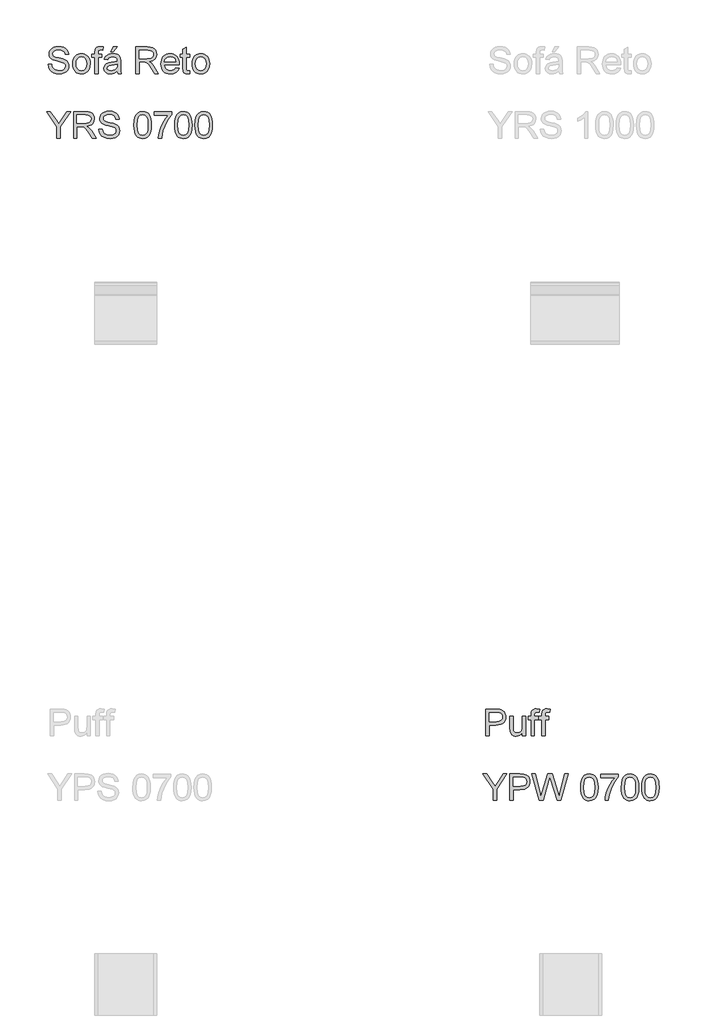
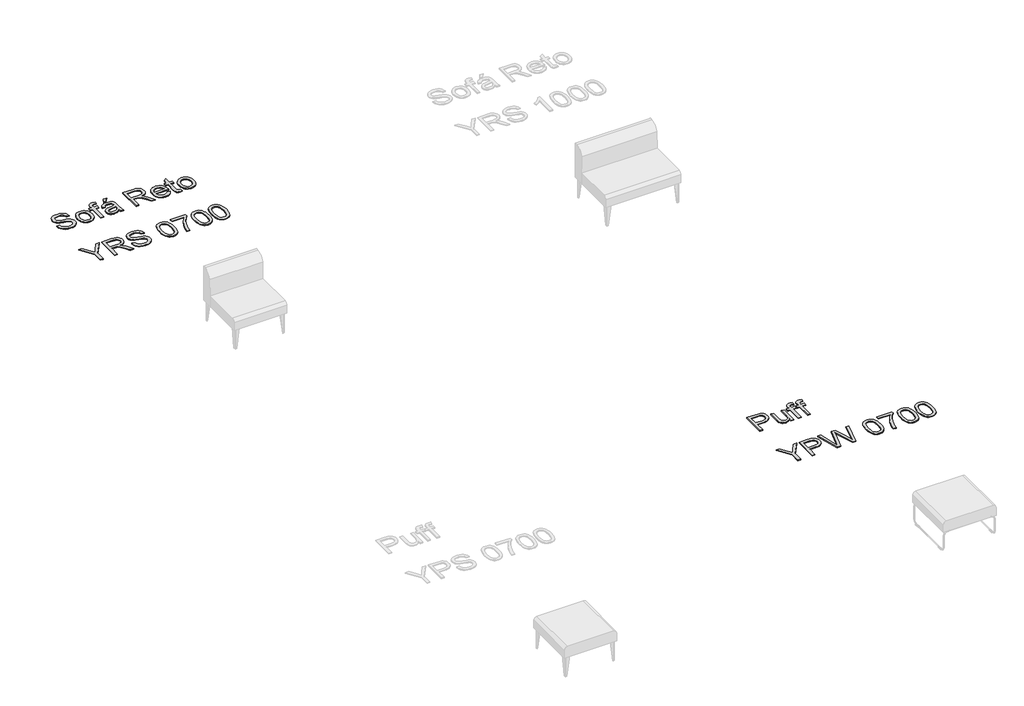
# One storey, part 9 of 26: 2 proxies.
"""IFC4 building model written with IfcOpenShell, lengths in millimetres."""

from ifc_helpers import new_model, si_unit, origin, origin_with_axes, place, context, project, spatial, polyline, outline, extrude, element, save

model = new_model("IFC4")

# Units and contexts
model_context = context("Model", 3, world=origin())
ifc_project = project(units=[si_unit("LENGTHUNIT", "METRE", prefix="MILLI")], contexts=[model_context])

# Site, building, storey
site = spatial("IfcSite", under=ifc_project)
building = spatial("IfcBuilding", under=site)
storey = spatial("IfcBuildingStorey", under=building, Name="Marelli - Linha YOUNG - Planta Baixa", Elevation=0.0)

# Proxies
placement = place(None, origin())
element("IfcBuildingElementProxy", 1, Name="300mm Arial", ObjectType="300mm Arial", at=placement, inside=storey, context=model_context, shape_type="SweptSolid", body=[
    extrude(outline(polyline([(-15025.7380244, 188.9537033), (-14988.0669081, 188.9537033), (-14983.7442947, 168.0488089), (-14975.9268023, 151.2457988), (-14963.7315142, 137.9100765), (-14946.2755135, 127.4070455), (-14924.9383578, 120.5920316), (-14901.0996045, 118.3203602), (-14880.1119367, 120.0402086), (-14861.736231, 125.1997535), (-14846.8462072, 133.3667338), (-14836.3155851, 144.1088881), (-14830.0523942, 156.442132), (-14827.9646638, 169.3823812), (-14829.5281623, 181.9915366), (-14834.2186578, 192.8900407), (-14843.7468014, 202.1882581), (-14859.8232446, 209.9965534), (-14914.6744501, 224.3807394), (-14950.6809004, 233.8996861), (-14973.7195103, 242.9587802), (-14992.472295, 255.6323149), (-15005.7620321, 270.9913882), (-15013.680692, 288.7049063), (-15016.3202454, 308.4417753), (-15013.0552927, 330.505498), (-15003.2604345, 351.0792986), (-14987.1931884, 368.5169052), (-14965.1110716, 381.1720458), (-14938.6051739, 388.8699765), (-14909.2665848, 391.4359535), (-14877.4815804, 388.7504149), (-14849.6697015, 380.6937992), (-14826.8242296, 367.4316533), (-14809.9384461, 349.129524), (-14799.2514741, 326.9278456), (-14795.0024371, 301.9670522), (-14832.6735534, 301.9670522), (-14839.5897349, 324.4446421), (-14854.0107091, 340.6682381), (-14876.5434813, 350.4906874), (-14907.7950568, 353.7648371), (-14939.7823963, 350.5274756), (-14961.7265573, 340.8153909), (-14974.4184861, 326.5231754), (-14978.6491291, 309.5454213), (-14975.6508908, 295.0692648), (-14966.656176, 283.4257997), (-14945.3925967, 273.0147392), (-14905.1463064, 262.3829495), (-14863.6124292, 252.2845888), (-14838.4860889, 243.473815), (-14817.0109774, 229.8069989), (-14802.0289832, 212.9396094), (-14793.2274064, 193.0555876), (-14790.2935475, 170.3388744), (-14793.6688648, 147.1163234), (-14803.7948168, 125.2733299), (-14820.257536, 106.47456), (-14842.6431554, 92.3846796), (-14869.5629204, 83.5831028), (-14899.6280765, 80.6492439), (-14936.5358377, 83.8130291), (-14966.9136934, 93.3043846), (-14991.1111316, 109.1600986), (-15009.4776403, 131.4169593), (-15021.2682582, 158.5298623), (-15025.7380244, 188.9537033)])), origin_with_axes(), (0.0, 0.0, 1.0), 10.0),
    extrude(outline(polyline([(-14747.9135417, 196.0170376), (-14745.8763951, 224.6796436), (-14739.7649555, 249.378321), (-14729.5792227, 270.11307), (-14715.3191969, 286.8838904), (-14700.962602, 297.6030521), (-14685.1160851, 305.2595961), (-14667.7796461, 309.8535225), (-14648.953285, 311.3848313), (-14628.1702515, 309.5201294), (-14609.3783793, 303.9260239), (-14592.5776685, 294.6025145), (-14577.7681189, 281.5496015), (-14565.6808961, 265.2087431), (-14557.0471655, 246.0213978), (-14551.8669272, 223.9875656), (-14550.1401811, 199.1072464), (-14553.1936016, 161.049854), (-14562.3538633, 132.0791469), (-14577.3542517, 110.3833062), (-14597.9280522, 94.1505132), (-14622.3646138, 84.0245612), (-14648.953285, 80.6492439), (-14670.0398211, 82.507048), (-14689.0064372, 88.0804602), (-14705.8531333, 97.3694806), (-14720.5799094, 110.3741091), (-14732.5383735, 126.8736166), (-14741.0801336, 146.6472739), (-14746.2051897, 169.6950809), (-14747.9135417, 196.0170376)]), holes=[polyline([(-14710.2424254, 196.090614), (-14705.8830237, 161.9971501), (-14692.8048188, 137.7077414), (-14673.1231321, 123.1672055), (-14648.953285, 118.3203602), (-14624.8938025, 123.1947967), (-14605.248904, 137.818106), (-14592.170699, 162.4294115), (-14587.8112974, 197.2678364), (-14592.1982902, 230.3680189), (-14605.3592686, 254.3263339), (-14625.0317582, 268.8668697), (-14648.953285, 273.713715), (-14673.1231321, 268.8852638), (-14692.8048188, 254.3999103), (-14705.8830237, 230.1656838), (-14710.2424254, 196.090614)])]), origin_with_axes(), (0.0, 0.0, 1.0), 10.0),
    extrude(outline(polyline([(-14498.3423962, 85.3581335), (-14498.3423962, 269.0048255), (-14531.3046229, 269.0048255), (-14531.3046229, 306.6759418), (-14498.3423962, 306.6759418), (-14498.3423962, 328.9695907), (-14494.3692706, 360.3867131), (-14486.7909015, 372.913095), (-14475.0922541, 382.8275148), (-14458.7215053, 389.2838438), (-14437.1268322, 391.4359535), (-14402.7666538, 387.3156751), (-14408.2848837, 351.9990036), (-14429.9899215, 353.7648371), (-14444.3097281, 352.2013387), (-14453.7183101, 347.5108432), (-14458.9330374, 338.5529166), (-14460.6712798, 324.1871247), (-14460.6712798, 306.6759418), (-14418.291274, 306.6759418), (-14418.291274, 269.0048255), (-14460.6712798, 269.0048255), (-14460.6712798, 85.3581335), (-14498.3423962, 85.3581335)])), origin_with_axes(), (0.0, 0.0, 1.0), 10.0),
    extrude(outline(polyline([(-14244.0623611, 113.6114707), (-14262.0609877, 98.178821), (-14280.5930432, 88.0804602), (-14300.0815919, 82.507048), (-14320.9496981, 80.6492439), (-14352.4311998, 85.1190102), (-14375.6537508, 98.5283089), (-14389.9735574, 118.8905773), (-14394.7468263, 144.2192527), (-14392.9442045, 159.8358434), (-14387.5363392, 174.0176943), (-14379.194615, 186.1578001), (-14368.5904165, 195.6491556), (-14342.2132774, 208.0099907), (-14309.6189326, 213.6753734), (-14271.1016877, 219.6350617), (-14244.2830903, 226.6248196), (-14244.0623611, 235.0125291), (-14246.6559292, 251.8247363), (-14254.4366334, 262.8244079), (-14271.8374517, 270.9913882), (-14296.0808752, 273.713715), (-14318.5216769, 271.9018962), (-14334.1934499, 266.4664397), (-14344.8804219, 256.4140642), (-14352.3668205, 240.7514882), (-14390.0379368, 245.4603778), (-14383.4988343, 266.0617695), (-14373.7407644, 282.2485773), (-14359.8532191, 294.6278064), (-14340.9256904, 303.8064622), (-14317.7767159, 309.490239), (-14291.2248329, 311.3848313), (-14265.7582018, 309.7109682), (-14245.5706773, 304.689379), (-14230.3495597, 297.138601), (-14219.7821494, 287.8771718), (-14212.7739974, 276.4268447), (-14208.2306548, 262.3093731), (-14206.3912448, 229.3471464), (-14206.3912448, 182.4789802), (-14204.4782584, 117.0327733), (-14196.9734657, 85.3581335), (-14234.644582, 85.3581335), (-14244.0623611, 113.6114707)]), holes=[polyline([(-14244.0623611, 188.9537033), (-14304.8364667, 177.4022087), (-14337.2468705, 171.2953675), (-14351.9253621, 161.3625537), (-14357.07571, 146.8680031), (-14354.2706098, 135.6659963), (-14345.8553092, 126.4873405), (-14332.0137491, 120.3621053), (-14312.9298706, 118.3203602), (-14292.6963609, 120.5736375), (-14274.8172959, 127.3334691), (-14260.3227453, 137.2938741), (-14250.2427786, 149.1488714), (-14245.7730124, 161.3625537), (-14244.2830903, 178.2851254), (-14244.0623611, 188.9537033)])]), origin_with_axes(), (0.0, 0.0, 1.0), 10.0),
    extrude(outline(polyline([(-14319.4045937, 330.2203895), (-14291.1512565, 386.7270639), (-14244.0623611, 386.7270639), (-14291.1512565, 330.2203895), (-14319.4045937, 330.2203895)])), origin_with_axes(), (0.0, 0.0, 1.0), 10.0),
    extrude(outline(polyline([(-14032.1623319, 85.3581335), (-14032.1623319, 386.7270639), (-13902.2999876, 386.7270639), (-13867.3971833, 384.6945159), (-13842.0041286, 378.5968718), (-13823.4444819, 367.3396828), (-13809.0419018, 349.8284998), (-13799.7988667, 328.114265), (-13796.717855, 304.2479206), (-13801.8222176, 274.5598436), (-13817.1353057, 249.9485381), (-13828.7350848, 239.9191552), (-13843.1169716, 231.9039262), (-13880.2270679, 221.9159301), (-13858.8163357, 205.8026987), (-13828.2821301, 167.0279364), (-13778.0294496, 85.3581335), (-13821.807407, 85.3581335), (-13861.0236277, 147.8244962), (-13889.3505413, 189.1744325), (-13909.2529573, 208.7089665), (-13927.1688104, 215.8826654), (-13949.021001, 217.2070405), (-13994.4912156, 217.2070405), (-13994.4912156, 85.3581335), (-14032.1623319, 85.3581335)]), holes=[polyline([(-13994.4912156, 254.8781568), (-13910.1726623, 254.8781568), (-13885.9568299, 256.2117291), (-13867.167257, 260.2124458), (-13853.0221943, 267.1470214), (-13842.7398926, 277.2821704), (-13836.4767016, 289.5418378), (-13834.3889713, 302.849969), (-13838.3712939, 321.2256747), (-13850.3182617, 336.032925), (-13870.8736681, 345.800192), (-13900.6813068, 349.0559476), (-13994.4912156, 349.0559476), (-13994.4912156, 254.8781568)])]), origin_with_axes(), (0.0, 0.0, 1.0), 10.0),
    extrude(outline(polyline([(-13580.5503946, 151.282587), (-13543.6150423, 146.5736975), (-13556.9231734, 118.7434245), (-13578.1591616, 97.9396977), (-13606.8447602, 84.9718574), (-13642.5017226, 80.6492439), (-13665.8760248, 82.5139458), (-13686.7027443, 88.1080514), (-13704.9818809, 97.4315607), (-13720.7134348, 110.4844737), (-13733.3639769, 126.903507), (-13742.4000784, 146.3253771), (-13747.8217393, 168.750084), (-13749.6289596, 194.1776276), (-13747.8033452, 220.4673947), (-13742.326502, 243.6393619), (-13733.19843, 263.6935292), (-13720.4191292, 280.6298965), (-13704.7289621, 294.0851805), (-13686.8682912, 303.6960976), (-13666.8371166, 309.4626479), (-13644.6354381, 311.3848313), (-13623.1488304, 309.4672464), (-13603.7177632, 303.7144917), (-13586.3422367, 294.1265672), (-13571.0222509, 280.7034729), (-13558.5165623, 263.8038938), (-13549.5839276, 243.7865147), (-13544.2243468, 220.6513357), (-13542.4378199, 194.3983568), (-13542.6585491, 184.2448138), (-13711.9578433, 184.2448138), (-13705.4371349, 156.0466588), (-13690.2895937, 135.3165084), (-13668.4282062, 122.5693973), (-13641.7659586, 118.3203602), (-13621.7163898, 120.2885289), (-13604.8306063, 126.1930349), (-13591.1086078, 136.4017603), (-13580.5503946, 151.282587)]), holes=[polyline([(-13711.9578433, 221.9159301), (-13580.1089362, 221.9159301), (-13585.2041018, 241.818346), (-13595.192098, 256.0553792), (-13617.1546531, 269.2991311), (-13644.7825909, 273.713715), (-13670.1756457, 270.1912449), (-13691.1725105, 259.6238346), (-13705.7682287, 243.1519182), (-13711.9578433, 221.9159301)])]), origin_with_axes(), (0.0, 0.0, 1.0), 10.0),
    extrude(outline(polyline([(-13424.7155814, 116.7752559), (-13420.0066919, 84.2544875), (-13448.1864527, 80.6492439), (-13466.2678528, 82.2127424), (-13479.7507279, 86.9032378), (-13489.2788716, 94.1321191), (-13495.4960773, 103.3107748), (-13498.9173799, 119.0745183), (-13500.057814, 146.0586627), (-13500.057814, 269.0048255), (-13528.3111513, 269.0048255), (-13528.3111513, 306.6759418), (-13500.057814, 306.6759418), (-13500.057814, 360.4602895), (-13462.3866977, 382.6067856), (-13462.3866977, 306.6759418), (-13424.7155814, 306.6759418), (-13424.7155814, 269.0048255), (-13462.3866977, 269.0048255), (-13462.3866977, 147.1623087), (-13460.400135, 127.7381393), (-13453.9622, 120.858746), (-13441.1231184, 118.3203602), (-13424.7155814, 116.7752559)])), origin_with_axes(), (0.0, 0.0, 1.0), 10.0),
    extrude(outline(polyline([(-13396.4622442, 196.0170376), (-13394.4250977, 224.6796436), (-13388.313658, 249.378321), (-13378.1279253, 270.11307), (-13363.8678994, 286.8838904), (-13349.5113046, 297.6030521), (-13333.6647876, 305.2595961), (-13316.3283486, 309.8535225), (-13297.5019875, 311.3848313), (-13276.718954, 309.5201294), (-13257.9270819, 303.9260239), (-13241.126371, 294.6025145), (-13226.3168214, 281.5496015), (-13214.2295986, 265.2087431), (-13205.5958681, 246.0213978), (-13200.4156297, 223.9875656), (-13198.6888836, 199.1072464), (-13201.7423042, 161.049854), (-13210.9025658, 132.0791469), (-13225.9029542, 110.3833062), (-13246.4767548, 94.1505132), (-13270.9133163, 84.0245612), (-13297.5019875, 80.6492439), (-13318.5885236, 82.507048), (-13337.5551397, 88.0804602), (-13354.4018358, 97.3694806), (-13369.128612, 110.3741091), (-13381.0870761, 126.8736166), (-13389.6288361, 146.6472739), (-13394.7538922, 169.6950809), (-13396.4622442, 196.0170376)]), holes=[polyline([(-13358.7911279, 196.090614), (-13354.4317263, 161.9971501), (-13341.3535213, 137.7077414), (-13321.6718346, 123.1672055), (-13297.5019875, 118.3203602), (-13273.442505, 123.1947967), (-13253.7976065, 137.818106), (-13240.7194015, 162.4294115), (-13236.3599999, 197.2678364), (-13240.7469927, 230.3680189), (-13253.9079711, 254.3263339), (-13273.5804608, 268.8668697), (-13297.5019875, 273.713715), (-13321.6718346, 268.8852638), (-13341.3535213, 254.3999103), (-13354.4317263, 230.1656838), (-13358.7911279, 196.090614)])]), origin_with_axes(), (0.0, 0.0, 1.0), 10.0),
    extrude(outline(polyline([(-14926.8513441, -646.4907736), (-14926.8513441, -518.8357213), (-15044.5735826, -345.1218432), (-15000.1334376, -345.1218432), (-14937.2991928, -437.9016823), (-14905.1463064, -485.2113069), (-14872.9198436, -434.517168), (-14815.8981344, -345.1218432), (-14771.4579894, -345.1218432), (-14889.1802278, -518.8357213), (-14889.1802278, -646.4907736), (-14926.8513441, -646.4907736)])), origin_with_axes(), (0.0, 0.0, 1.0), 10.0),
    extrude(outline(polyline([(-14738.4957626, -646.4907736), (-14738.4957626, -345.1218432), (-14608.6334183, -345.1218432), (-14573.730614, -347.1543912), (-14548.3375593, -353.2520352), (-14529.7779126, -364.5092243), (-14515.3753325, -382.0204073), (-14506.1322974, -403.734642), (-14503.0512857, -427.6009865), (-14508.1556484, -457.2890635), (-14523.4687364, -481.900369), (-14535.0685156, -491.9297519), (-14549.4504023, -499.9449808), (-14586.5604986, -509.932977), (-14565.1497665, -526.0462084), (-14534.6155609, -564.8209707), (-14484.3628803, -646.4907736), (-14528.1408378, -646.4907736), (-14567.3570585, -584.0244108), (-14595.6839721, -542.6744746), (-14615.586388, -523.1399406), (-14633.5022412, -515.9662417), (-14655.3544317, -514.6418665), (-14700.8246463, -514.6418665), (-14700.8246463, -646.4907736), (-14738.4957626, -646.4907736)]), holes=[polyline([(-14700.8246463, -476.9707502), (-14616.506093, -476.9707502), (-14592.2902607, -475.637178), (-14573.5006878, -471.6364613), (-14559.3556251, -464.7018857), (-14549.0733233, -454.5667367), (-14542.8101323, -442.3070692), (-14540.722402, -428.9989381), (-14544.7047246, -410.6232324), (-14556.6516924, -395.8159821), (-14577.2070989, -386.0487151), (-14607.0147375, -382.7929595), (-14700.8246463, -382.7929595), (-14700.8246463, -476.9707502)])]), origin_with_axes(), (0.0, 0.0, 1.0), 10.0),
    extrude(outline(polyline([(-14451.2535008, -542.8952038), (-14413.5823845, -542.8952038), (-14409.259771, -563.8000981), (-14401.4422786, -580.6031083), (-14389.2469905, -593.9388306), (-14371.7909898, -604.4418616), (-14350.4538341, -611.2568755), (-14326.6150808, -613.5285468), (-14305.627413, -611.8086985), (-14287.2517073, -606.6491535), (-14272.3616836, -598.4821732), (-14261.8310615, -587.740019), (-14255.5678705, -575.4067751), (-14253.4801402, -562.4665259), (-14255.0436386, -549.8573705), (-14259.7341341, -538.9588664), (-14269.2622778, -529.660649), (-14285.3387209, -521.8523536), (-14340.1899264, -507.4681676), (-14376.1963767, -497.949221), (-14399.2349867, -488.8901269), (-14417.9877714, -476.2165921), (-14431.2775084, -460.8575188), (-14439.1961684, -443.1440008), (-14441.8357217, -423.4071317), (-14438.570769, -401.3434091), (-14428.7759109, -380.7696085), (-14412.7086647, -363.3320019), (-14390.626548, -350.6768613), (-14364.1206502, -342.9789305), (-14334.7820611, -340.4129536), (-14302.9970567, -343.0984922), (-14275.1851779, -351.1551079), (-14252.339706, -364.4172538), (-14235.4539224, -382.7193831), (-14224.7669504, -404.9210615), (-14220.5179134, -429.8818548), (-14258.1890297, -429.8818548), (-14265.1052112, -407.4042649), (-14279.5261854, -391.180669), (-14302.0589576, -381.3582197), (-14333.3105331, -378.0840699), (-14365.2978726, -381.3214315), (-14387.2420336, -391.0335162), (-14399.9339624, -405.3257317), (-14404.1646054, -422.3034857), (-14401.1663671, -436.7796423), (-14392.1716523, -448.4231074), (-14370.908073, -458.8341679), (-14330.6617828, -469.4659575), (-14289.1279055, -479.5643183), (-14264.0015652, -488.3750921), (-14242.5264538, -502.0419082), (-14227.5444595, -518.9092977), (-14218.7428828, -538.7933195), (-14215.8090239, -561.5100327), (-14219.1843412, -584.7325837), (-14229.3102931, -606.5755771), (-14245.7730124, -625.3743471), (-14268.1586318, -639.4642275), (-14295.0783968, -648.2658042), (-14325.1435528, -651.1996631), (-14362.051314, -648.035878), (-14392.4291697, -638.5445225), (-14416.626608, -622.6888085), (-14434.9931166, -600.4319478), (-14446.7837345, -573.3190448), (-14451.2535008, -542.8952038)])), origin_with_axes(), (0.0, 0.0, 1.0), 10.0),
    extrude(outline(polyline([(-14055.7067796, -498.2343295), (-14052.9384675, -449.9958029), (-14044.6335315, -411.5245433), (-14030.8747449, -382.2319394), (-14011.7448811, -361.5293801), (-13987.1059845, -349.2237274), (-13956.8200993, -345.1218432), (-13933.6067454, -347.5498643), (-13912.8214126, -354.8339278), (-13895.4389884, -366.6889251), (-13882.4343598, -382.8297477), (-13872.6119106, -403.1184397), (-13864.7760241, -427.4170455), (-13859.6440702, -458.2731478), (-13857.933419, -498.2343295), (-13860.6741398, -546.1969447), (-13868.8963024, -584.5762338), (-13882.5723156, -613.8964288), (-13901.6745882, -634.6817616), (-13926.3686671, -647.0701877), (-13956.8200993, -651.1996631), (-13977.5686438, -649.4062384), (-13995.9627435, -644.0259642), (-14012.0023985, -635.0588406), (-14025.6876088, -622.5048675), (-14038.820996, -599.8111469), (-14048.2019869, -571.5348171), (-14053.8305814, -537.675878), (-14055.7067796, -498.2343295)]), holes=[polyline([(-14018.0356633, -498.1607531), (-14013.6210793, -557.4173455), (-14008.1028494, -577.6853442), (-14000.3773275, -591.7131445), (-13980.6588525, -608.0746963), (-13956.8200993, -613.5285468), (-13932.981346, -608.0563022), (-13913.262871, -591.6395681), (-13905.5373491, -577.5887752), (-13900.0191192, -557.325375), (-13895.6045353, -498.1607531), (-13899.8719664, -440.237733), (-13905.2062553, -420.0364129), (-13912.6742598, -405.6752196), (-13932.3559466, -388.5135245), (-13957.2615576, -382.7929595), (-13980.8427935, -387.8329428), (-13999.7887163, -402.9528928), (-14007.7717556, -418.5878776), (-14013.4739265, -439.6675159), (-14018.0356633, -498.1607531)])]), origin_with_axes(), (0.0, 0.0, 1.0), 10.0),
    extrude(outline(polyline([(-13824.9711922, -387.501849), (-13824.9711922, -349.8307327), (-13627.1978316, -349.8307327), (-13627.1978316, -380.2913619), (-13655.3867895, -415.9667184), (-13683.2998358, -461.3357654), (-13707.9203384, -512.2598306), (-13726.2316647, -564.6002415), (-13735.2079854, -603.7612799), (-13740.2111805, -646.4907736), (-13777.8822968, -646.4907736), (-13773.8080037, -607.660829), (-13762.9094996, -561.5100327), (-13745.4810901, -512.5909244), (-13721.8170807, -465.4560438), (-13694.1891429, -422.8461117), (-13664.8689479, -387.501849), (-13824.9711922, -387.501849)])), origin_with_axes(), (0.0, 0.0, 1.0), 10.0),
    extrude(outline(polyline([(-13594.2356048, -498.2343295), (-13591.4672928, -449.9958029), (-13583.1623568, -411.5245433), (-13569.4035701, -382.2319394), (-13550.2737064, -361.5293801), (-13525.6348098, -349.2237274), (-13495.3489245, -345.1218432), (-13472.1355706, -347.5498643), (-13451.3502379, -354.8339278), (-13433.9678136, -366.6889251), (-13420.9631851, -382.8297477), (-13411.1407358, -403.1184397), (-13403.3048493, -427.4170455), (-13398.1728955, -458.2731478), (-13396.4622442, -498.2343295), (-13399.2029651, -546.1969447), (-13407.4251277, -584.5762338), (-13421.1011408, -613.8964288), (-13440.2034134, -634.6817616), (-13464.8974924, -647.0701877), (-13495.3489245, -651.1996631), (-13516.097469, -649.4062384), (-13534.4915688, -644.0259642), (-13550.5312238, -635.0588406), (-13564.216434, -622.5048675), (-13577.3498212, -599.8111469), (-13586.7308121, -571.5348171), (-13592.3594066, -537.675878), (-13594.2356048, -498.2343295)]), holes=[polyline([(-13556.5644885, -498.1607531), (-13552.1499046, -557.4173455), (-13546.6316746, -577.6853442), (-13538.9061527, -591.7131445), (-13519.1876778, -608.0746963), (-13495.3489245, -613.5285468), (-13471.5101712, -608.0563022), (-13451.7916963, -591.6395681), (-13444.0661744, -577.5887752), (-13438.5479445, -557.325375), (-13434.1333605, -498.1607531), (-13438.4007917, -440.237733), (-13443.7350806, -420.0364129), (-13451.2030851, -405.6752196), (-13470.8847718, -388.5135245), (-13495.7903829, -382.7929595), (-13519.3716188, -387.8329428), (-13538.3175415, -402.9528928), (-13546.3005808, -418.5878776), (-13552.0027518, -439.6675159), (-13556.5644885, -498.1607531)])]), origin_with_axes(), (0.0, 0.0, 1.0), 10.0),
    extrude(outline(polyline([(-13363.5000174, -498.2343295), (-13360.7317054, -449.9958029), (-13352.4267694, -411.5245433), (-13338.6679828, -382.2319394), (-13319.538119, -361.5293801), (-13294.8992224, -349.2237274), (-13264.6133371, -345.1218432), (-13241.3999832, -347.5498643), (-13220.6146505, -354.8339278), (-13203.2322262, -366.6889251), (-13190.2275977, -382.8297477), (-13180.4051484, -403.1184397), (-13172.5692619, -427.4170455), (-13167.4373081, -458.2731478), (-13165.7266568, -498.2343295), (-13168.4673777, -546.1969447), (-13176.6895403, -584.5762338), (-13190.3655535, -613.8964288), (-13209.4678261, -634.6817616), (-13234.161905, -647.0701877), (-13264.6133371, -651.1996631), (-13285.3618817, -649.4062384), (-13303.7559814, -644.0259642), (-13319.7956364, -635.0588406), (-13333.4808466, -622.5048675), (-13346.6142339, -599.8111469), (-13355.9952247, -571.5348171), (-13361.6238193, -537.675878), (-13363.5000174, -498.2343295)]), holes=[polyline([(-13325.8289011, -498.1607531), (-13321.4143172, -557.4173455), (-13315.8960873, -577.6853442), (-13308.1705654, -591.7131445), (-13288.4520904, -608.0746963), (-13264.6133371, -613.5285468), (-13240.7745838, -608.0563022), (-13221.0561089, -591.6395681), (-13213.330587, -577.5887752), (-13207.8123571, -557.325375), (-13203.3977731, -498.1607531), (-13207.6652043, -440.237733), (-13212.9994932, -420.0364129), (-13220.4674977, -405.6752196), (-13240.1491845, -388.5135245), (-13265.0547955, -382.7929595), (-13288.6360314, -387.8329428), (-13307.5819542, -402.9528928), (-13315.5649935, -418.5878776), (-13321.2671644, -439.6675159), (-13325.8289011, -498.1607531)])]), origin_with_axes(), (0.0, 0.0, 1.0), 10.0),
])
element("IfcBuildingElementProxy", 2, Name="300mm Arial", ObjectType="300mm Arial", at=placement, inside=storey, context=model_context, shape_type="SweptSolid", body=[
    extrude(outline(polyline([(-10070.4724751, -7414.6418665), (-10070.4724751, -7113.2729361), (-9958.7835013, -7113.2729361), (-9913.7547451, -7116.1424156), (-9893.6775852, -7121.5042957), (-9877.1504866, -7130.2322961), (-9863.8423554, -7142.7218898), (-9853.4220979, -7159.3685501), (-9846.6898574, -7179.0042516), (-9844.4457772, -7200.4609689), (-9845.9609912, -7218.9608348), (-9850.5066331, -7235.9799756), (-9858.0827029, -7251.5183913), (-9868.6892007, -7265.5760821), (-9883.2504299, -7277.2287443), (-9902.6906941, -7285.5520744), (-9927.0099932, -7290.5460725), (-9956.2083274, -7292.2107385), (-10032.8013587, -7292.2107385), (-10032.8013587, -7414.6418665), (-10070.4724751, -7414.6418665)]), holes=[polyline([(-10032.8013587, -7254.5396222), (-9954.0010354, -7254.5396222), (-9920.5973502, -7251.0815315), (-9898.5244305, -7240.7072592), (-9886.2187778, -7224.0605989), (-9882.1168935, -7201.7853441), (-9884.5357176, -7184.8627723), (-9891.79219, -7170.5889509), (-9902.9849997, -7159.8467967), (-9917.2128359, -7153.5192264), (-9954.8839522, -7150.9440524), (-10032.8013587, -7150.9440524), (-10032.8013587, -7254.5396222)])]), origin_with_axes(), (0.0, 0.0, 1.0), 10.0),
    extrude(outline(polyline([(-9656.0901957, -7414.6418665), (-9656.0901957, -7376.6028682), (-9669.7202236, -7395.3050692), (-9685.5943317, -7408.6637841), (-9703.71252, -7416.6790131), (-9724.0747884, -7419.3507561), (-9742.4229029, -7417.4745579), (-9759.5018245, -7411.8459634), (-9773.8308282, -7403.3846775), (-9783.929189, -7393.0104052), (-9795.1495899, -7365.2721028), (-9797.3568818, -7330.2497368), (-9797.3568818, -7193.3240582), (-9759.6857655, -7193.3240582), (-9759.6857655, -7312.5178247), (-9757.4048972, -7350.924705), (-9751.9142584, -7363.7361954), (-9742.5056764, -7373.4758713), (-9729.8045505, -7379.6286976), (-9714.4362801, -7381.6796398), (-9698.185093, -7379.5827124), (-9682.9823695, -7373.2919303), (-9670.4467905, -7363.3867076), (-9662.1970368, -7350.4464584), (-9657.616906, -7332.7237433), (-9656.0901957, -7308.4711227), (-9656.0901957, -7193.3240582), (-9618.4190794, -7193.3240582), (-9618.4190794, -7414.6418665), (-9656.0901957, -7414.6418665)])), origin_with_axes(), (0.0, 0.0, 1.0), 10.0),
    extrude(outline(polyline([(-9434.7723874, -7414.6418665), (-9434.7723874, -7230.9951745), (-9467.7346142, -7230.9951745), (-9467.7346142, -7193.3240582), (-9434.7723874, -7193.3240582), (-9434.7723874, -7171.0304093), (-9430.7992618, -7139.6132869), (-9423.2208927, -7127.086905), (-9411.5222453, -7117.1724852), (-9395.1514965, -7110.7161562), (-9373.5568234, -7108.5640465), (-9339.196645, -7112.6843249), (-9344.714875, -7148.0009964), (-9366.4199127, -7146.2351629), (-9380.7397193, -7147.7986613), (-9390.1483014, -7152.4891568), (-9395.3630287, -7161.4470834), (-9397.1012711, -7175.8128753), (-9397.1012711, -7193.3240582), (-9354.7212652, -7193.3240582), (-9354.7212652, -7230.9951745), (-9397.1012711, -7230.9951745), (-9397.1012711, -7414.6418665), (-9434.7723874, -7414.6418665)])), origin_with_axes(), (0.0, 0.0, 1.0), 10.0),
    extrude(outline(polyline([(-9557.2035154, -7414.6418665), (-9557.2035154, -7230.9951745), (-9590.1657422, -7230.9951745), (-9590.1657422, -7193.3240582), (-9557.2035154, -7193.3240582), (-9557.2035154, -7171.0304093), (-9553.2303898, -7139.6132869), (-9545.6520207, -7127.086905), (-9533.9533733, -7117.1724852), (-9517.5826245, -7110.7161562), (-9495.9879514, -7108.5640465), (-9461.627773, -7112.6843249), (-9467.146003, -7148.0009964), (-9488.8510407, -7146.2351629), (-9503.1708473, -7147.7986613), (-9512.5794294, -7152.4891568), (-9517.7941567, -7161.4470834), (-9519.5323991, -7175.8128753), (-9519.5323991, -7193.3240582), (-9477.1523932, -7193.3240582), (-9477.1523932, -7230.9951745), (-9519.5323991, -7230.9951745), (-9519.5323991, -7414.6418665), (-9557.2035154, -7414.6418665)])), origin_with_axes(), (0.0, 0.0, 1.0), 10.0),
    extrude(outline(polyline([(-9985.7124634, -8146.4907736), (-9985.7124634, -8018.8357213), (-10103.4347018, -7845.1218432), (-10058.9945568, -7845.1218432), (-9996.160312, -7937.9016823), (-9964.0074257, -7985.2113069), (-9931.7809629, -7934.517168), (-9874.7592536, -7845.1218432), (-9830.3191086, -7845.1218432), (-9948.0413471, -8018.8357213), (-9948.0413471, -8146.4907736), (-9985.7124634, -8146.4907736)])), origin_with_axes(), (0.0, 0.0, 1.0), 10.0),
    extrude(outline(polyline([(-9797.3568818, -8146.4907736), (-9797.3568818, -7845.1218432), (-9685.6679081, -7845.1218432), (-9640.6391519, -7847.9913227), (-9620.561992, -7853.3532028), (-9604.0348934, -7862.0812031), (-9590.7267622, -7874.5707969), (-9580.3065047, -7891.2174572), (-9573.5742642, -7910.8531586), (-9571.330184, -7932.309876), (-9572.845398, -7950.8097418), (-9577.3910399, -7967.8288826), (-9584.9671097, -7983.3672984), (-9595.5736075, -7997.4249892), (-9610.1348367, -8009.0776514), (-9629.5751009, -8017.4009815), (-9653.8944, -8022.3949796), (-9683.0927341, -8024.0596456), (-9759.6857655, -8024.0596456), (-9759.6857655, -8146.4907736), (-9797.3568818, -8146.4907736)]), holes=[polyline([(-9759.6857655, -7986.3885293), (-9680.8854422, -7986.3885293), (-9647.481757, -7982.9304385), (-9625.4088373, -7972.5561663), (-9613.1031846, -7955.909506), (-9609.0013003, -7933.6342512), (-9611.4201244, -7916.7116794), (-9618.6765968, -7902.437858), (-9629.8694065, -7891.6957037), (-9644.0972426, -7885.3681334), (-9681.768359, -7882.7929595), (-9759.6857655, -7882.7929595), (-9759.6857655, -7986.3885293)])]), origin_with_axes(), (0.0, 0.0, 1.0), 10.0),
    extrude(outline(polyline([(-9465.6008986, -8146.4907736), (-9547.7857363, -7845.1218432), (-9508.9373976, -7845.1218432), (-9461.259891, -8043.1895094), (-9446.5446112, -8104.331497), (-9430.7992618, -8050.2528437), (-9371.0552258, -7845.1218432), (-9315.0635862, -7845.1218432), (-9271.6535107, -7993.8197456), (-9253.0570759, -8049.0020449), (-9239.3534716, -8104.331497), (-9225.0796501, -8044.9553429), (-9176.9606852, -7845.1218432), (-9138.1123465, -7845.1218432), (-9220.3707606, -8146.4907736), (-9260.6170509, -8146.4907736), (-9332.8690747, -7913.9893527), (-9342.9490414, -7881.5421607), (-9354.2798068, -7920.6112286), (-9420.130684, -8146.4907736), (-9465.6008986, -8146.4907736)])), origin_with_axes(), (0.0, 0.0, 1.0), 10.0),
    extrude(outline(polyline([(-8996.8456603, -7998.2343295), (-8994.0773483, -7949.9958029), (-8985.7724123, -7911.5245433), (-8972.0136257, -7882.2319394), (-8952.8837619, -7861.5293801), (-8928.2448653, -7849.2237274), (-8897.95898, -7845.1218432), (-8874.7456261, -7847.5498643), (-8853.9602934, -7854.8339278), (-8836.5778691, -7866.6889251), (-8823.5732406, -7882.8297477), (-8813.7507913, -7903.1184397), (-8805.9149048, -7927.4170455), (-8800.782951, -7958.2731478), (-8799.0722997, -7998.2343295), (-8801.8130206, -8046.1969447), (-8810.0351832, -8084.5762338), (-8823.7111964, -8113.8964288), (-8842.8134689, -8134.6817616), (-8867.5075479, -8147.0701877), (-8897.95898, -8151.1996631), (-8918.7075246, -8149.4062384), (-8937.1016243, -8144.0259642), (-8953.1412793, -8135.0588406), (-8966.8264895, -8122.5048675), (-8979.9598768, -8099.8111469), (-8989.3408676, -8071.5348171), (-8994.9694622, -8037.675878), (-8996.8456603, -7998.2343295)]), holes=[polyline([(-8959.174544, -7998.1607531), (-8954.7599601, -8057.4173455), (-8949.2417302, -8077.6853442), (-8941.5162083, -8091.7131445), (-8921.7977333, -8108.0746963), (-8897.95898, -8113.5285468), (-8874.1202267, -8108.0563022), (-8854.4017518, -8091.6395681), (-8846.6762299, -8077.5887752), (-8841.158, -8057.325375), (-8836.743416, -7998.1607531), (-8841.0108472, -7940.237733), (-8846.3451361, -7920.0364129), (-8853.8131406, -7905.6752196), (-8873.4948273, -7888.5135245), (-8898.4004384, -7882.7929595), (-8921.9816743, -7887.8329428), (-8940.9275971, -7902.9528928), (-8948.9106364, -7918.5878776), (-8954.6128073, -7939.6675159), (-8959.174544, -7998.1607531)])]), origin_with_axes(), (0.0, 0.0, 1.0), 10.0),
    extrude(outline(polyline([(-8766.110073, -7887.501849), (-8766.110073, -7849.8307327), (-8568.3367123, -7849.8307327), (-8568.3367123, -7880.2913619), (-8596.5256702, -7915.9667184), (-8624.4387166, -7961.3357654), (-8649.0592191, -8012.2598306), (-8667.3705455, -8064.6002415), (-8676.3468661, -8103.7612799), (-8681.3500613, -8146.4907736), (-8719.0211776, -8146.4907736), (-8714.9468845, -8107.660829), (-8704.0483804, -8061.5100327), (-8686.6199708, -8012.5909244), (-8662.9559615, -7965.4560438), (-8635.3280237, -7922.8461117), (-8606.0078287, -7887.501849), (-8766.110073, -7887.501849)])), origin_with_axes(), (0.0, 0.0, 1.0), 10.0),
    extrude(outline(polyline([(-8535.3744856, -7998.2343295), (-8532.6061736, -7949.9958029), (-8524.3012375, -7911.5245433), (-8510.5424509, -7882.2319394), (-8491.4125872, -7861.5293801), (-8466.7736905, -7849.2237274), (-8436.4878053, -7845.1218432), (-8413.2744514, -7847.5498643), (-8392.4891187, -7854.8339278), (-8375.1066944, -7866.6889251), (-8362.1020659, -7882.8297477), (-8352.2796166, -7903.1184397), (-8344.4437301, -7927.4170455), (-8339.3117763, -7958.2731478), (-8337.601125, -7998.2343295), (-8340.3418458, -8046.1969447), (-8348.5640084, -8084.5762338), (-8362.2400216, -8113.8964288), (-8381.3422942, -8134.6817616), (-8406.0363731, -8147.0701877), (-8436.4878053, -8151.1996631), (-8457.2363498, -8149.4062384), (-8475.6304496, -8144.0259642), (-8491.6701046, -8135.0588406), (-8505.3553148, -8122.5048675), (-8518.488702, -8099.8111469), (-8527.8696929, -8071.5348171), (-8533.4982874, -8037.675878), (-8535.3744856, -7998.2343295)]), holes=[polyline([(-8497.7033693, -7998.1607531), (-8493.2887853, -8057.4173455), (-8487.7705554, -8077.6853442), (-8480.0450335, -8091.7131445), (-8460.3265586, -8108.0746963), (-8436.4878053, -8113.5285468), (-8412.649052, -8108.0563022), (-8392.930577, -8091.6395681), (-8385.2050551, -8077.5887752), (-8379.6868252, -8057.325375), (-8375.2722413, -7998.1607531), (-8379.5396724, -7940.237733), (-8384.8739614, -7920.0364129), (-8392.3419659, -7905.6752196), (-8412.0236526, -7888.5135245), (-8436.9292637, -7882.7929595), (-8460.5104996, -7887.8329428), (-8479.4564223, -7902.9528928), (-8487.4394616, -7918.5878776), (-8493.1416325, -7939.6675159), (-8497.7033693, -7998.1607531)])]), origin_with_axes(), (0.0, 0.0, 1.0), 10.0),
    extrude(outline(polyline([(-8304.6388982, -7998.2343295), (-8301.8705862, -7949.9958029), (-8293.5656502, -7911.5245433), (-8279.8068635, -7882.2319394), (-8260.6769998, -7861.5293801), (-8236.0381032, -7849.2237274), (-8205.7522179, -7845.1218432), (-8182.538864, -7847.5498643), (-8161.7535313, -7854.8339278), (-8144.371107, -7866.6889251), (-8131.3664785, -7882.8297477), (-8121.5440292, -7903.1184397), (-8113.7081427, -7927.4170455), (-8108.5761889, -7958.2731478), (-8106.8655376, -7998.2343295), (-8109.6062585, -8046.1969447), (-8117.8284211, -8084.5762338), (-8131.5044342, -8113.8964288), (-8150.6067068, -8134.6817616), (-8175.3007858, -8147.0701877), (-8205.7522179, -8151.1996631), (-8226.5007624, -8149.4062384), (-8244.8948622, -8144.0259642), (-8260.9345172, -8135.0588406), (-8274.6197274, -8122.5048675), (-8287.7531146, -8099.8111469), (-8297.1341055, -8071.5348171), (-8302.7627, -8037.675878), (-8304.6388982, -7998.2343295)]), holes=[polyline([(-8266.9677819, -7998.1607531), (-8262.553198, -8057.4173455), (-8257.034968, -8077.6853442), (-8249.3094461, -8091.7131445), (-8229.5909712, -8108.0746963), (-8205.7522179, -8113.5285468), (-8181.9134646, -8108.0563022), (-8162.1949897, -8091.6395681), (-8154.4694678, -8077.5887752), (-8148.9512378, -8057.325375), (-8144.5366539, -7998.1607531), (-8148.804085, -7940.237733), (-8154.138374, -7920.0364129), (-8161.6063785, -7905.6752196), (-8181.2880652, -7888.5135245), (-8206.1936763, -7882.7929595), (-8229.7749122, -7887.8329428), (-8248.7208349, -7902.9528928), (-8256.7038742, -7918.5878776), (-8262.4060452, -7939.6675159), (-8266.9677819, -7998.1607531)])]), origin_with_axes(), (0.0, 0.0, 1.0), 10.0),
])

save(model, "model.ifc")
